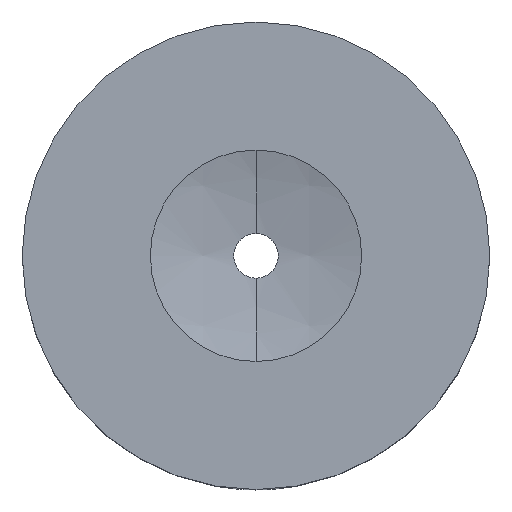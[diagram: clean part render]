
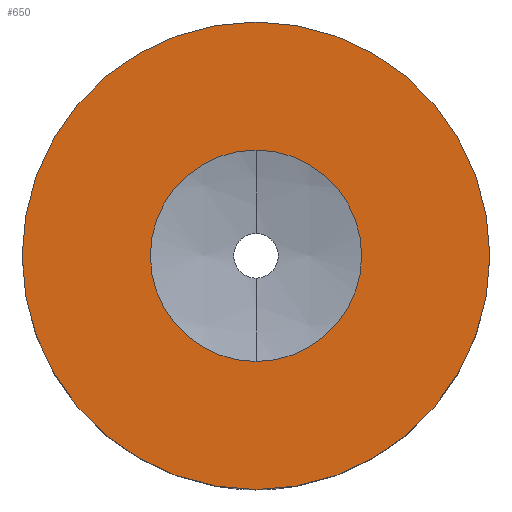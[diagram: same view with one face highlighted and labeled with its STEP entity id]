
A CAD part, top view. The second image highlights one B-rep face of the part: STEP entity #650.
In plain terms, the highlighted planar face has unit normal (0, 0, 1).
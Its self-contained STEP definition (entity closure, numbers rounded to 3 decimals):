
#13 = DIRECTION ( 'NONE',  ( -1., 0., 0. ) ) ;
#22 = FACE_OUTER_BOUND ( 'NONE', #583, .T. ) ;
#34 = VERTEX_POINT ( 'NONE', #603 ) ;
#37 = ORIENTED_EDGE ( 'NONE', *, *, #215, .T. ) ;
#53 = AXIS2_PLACEMENT_3D ( 'NONE', #361, #565, #103 ) ;
#60 = EDGE_CURVE ( 'NONE', #595, #34, #489, .T. ) ;
#61 = CARTESIAN_POINT ( 'NONE',  ( 0., 0., 0. ) ) ;
#69 = CARTESIAN_POINT ( 'NONE',  ( 0., 0., 0. ) ) ;
#72 = DIRECTION ( 'NONE',  ( 1., 0., 0. ) ) ;
#73 = VERTEX_POINT ( 'NONE', #146 ) ;
#90 = ORIENTED_EDGE ( 'NONE', *, *, #184, .T. ) ;
#103 = DIRECTION ( 'NONE',  ( 1., 0., 0. ) ) ;
#119 = CARTESIAN_POINT ( 'NONE',  ( 0., -2.25, 0. ) ) ;
#146 = CARTESIAN_POINT ( 'NONE',  ( -24., 0., 0. ) ) ;
#148 = CIRCLE ( 'NONE', #577, 24. ) ;
#160 = EDGE_CURVE ( 'NONE', #73, #550, #433, .T. ) ;
#184 = EDGE_CURVE ( 'NONE', #550, #73, #148, .T. ) ;
#215 = EDGE_CURVE ( 'NONE', #34, #595, #625, .T. ) ;
#225 = DIRECTION ( 'NONE',  ( 0., 0., 1. ) ) ;
#285 = ORIENTED_EDGE ( 'NONE', *, *, #60, .T. ) ;
#325 = CARTESIAN_POINT ( 'NONE',  ( 24., 0., 0. ) ) ;
#327 = DIRECTION ( 'NONE',  ( 1., 0., 0. ) ) ;
#361 = CARTESIAN_POINT ( 'NONE',  ( 0., 0., 0. ) ) ;
#376 = FACE_BOUND ( 'NONE', #460, .T. ) ;
#377 = CARTESIAN_POINT ( 'NONE',  ( 0., 0., 0. ) ) ;
#384 = ORIENTED_EDGE ( 'NONE', *, *, #160, .T. ) ;
#421 = AXIS2_PLACEMENT_3D ( 'NONE', #119, #225, #327 ) ;
#431 = AXIS2_PLACEMENT_3D ( 'NONE', #69, #631, #13 ) ;
#433 = CIRCLE ( 'NONE', #53, 24. ) ;
#457 = DIRECTION ( 'NONE',  ( 0., 0., -1. ) ) ;
#460 = EDGE_LOOP ( 'NONE', ( #285, #37 ) ) ;
#479 = CARTESIAN_POINT ( 'NONE',  ( 0., 10.851, 0. ) ) ;
#489 = CIRCLE ( 'NONE', #570, 10.851 ) ;
#491 = DIRECTION ( 'NONE',  ( 0., 0., 1. ) ) ;
#550 = VERTEX_POINT ( 'NONE', #325 ) ;
#559 = DIRECTION ( 'NONE',  ( -1., 0., 0. ) ) ;
#565 = DIRECTION ( 'NONE',  ( 0., 0., 1. ) ) ;
#570 = AXIS2_PLACEMENT_3D ( 'NONE', #61, #457, #559 ) ;
#577 = AXIS2_PLACEMENT_3D ( 'NONE', #377, #491, #72 ) ;
#581 = PLANE ( 'NONE',  #421 ) ;
#583 = EDGE_LOOP ( 'NONE', ( #90, #384 ) ) ;
#595 = VERTEX_POINT ( 'NONE', #479 ) ;
#603 = CARTESIAN_POINT ( 'NONE',  ( 0., -10.851, 0. ) ) ;
#625 = CIRCLE ( 'NONE', #431, 10.851 ) ;
#631 = DIRECTION ( 'NONE',  ( 0., 0., -1. ) ) ;
#650 = ADVANCED_FACE ( 'NONE', ( #376, #22 ), #581, .T. ) ;
